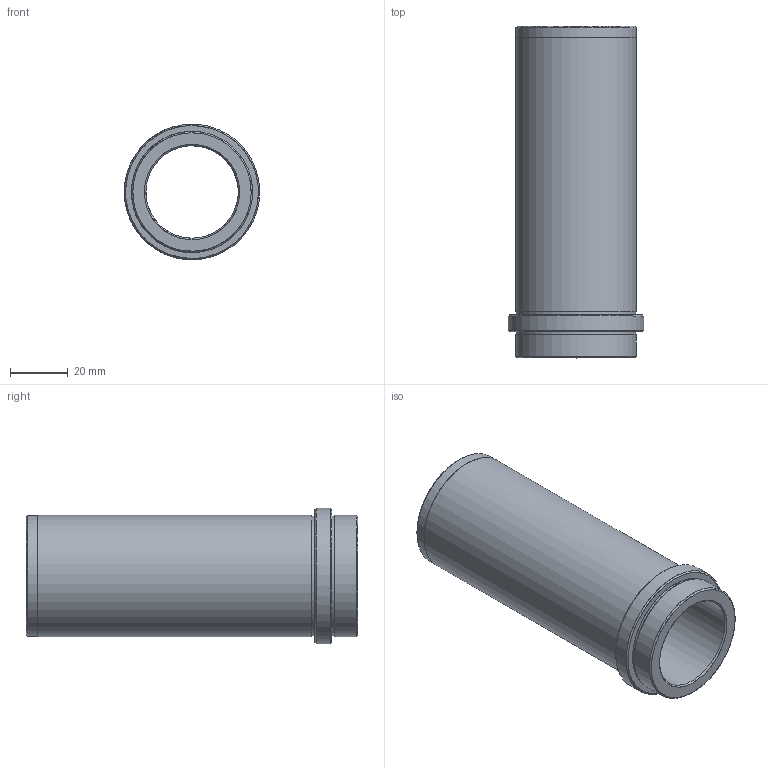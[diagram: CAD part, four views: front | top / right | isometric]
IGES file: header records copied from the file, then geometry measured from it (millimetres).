
Start section: Missler Software BP 521, 31674 Labege Cedex, France Tel   : +33 (0)5 61 00 03 00 Fax   : +33 (0)5 61 00 03 03 Email : sup.topsolid@topsolid.com
Global section: file name: D:\Cuma\24 03 2009\D21\D21_32X106.igs; native system: TopSolid v605250 Missler Software; preprocessor: IGES preprocessor v100000; date: 030101.000955; units: millimetre
Bounding box: 46.99 x 115 x 47 mm (x, y, z)
Surface area: 28645.7 mm2 (no closed solid volume)
Topology: 0 solids, 0 shells, 20 faces, 496 edges, 486 vertices
Faces by surface type: bspline 20
